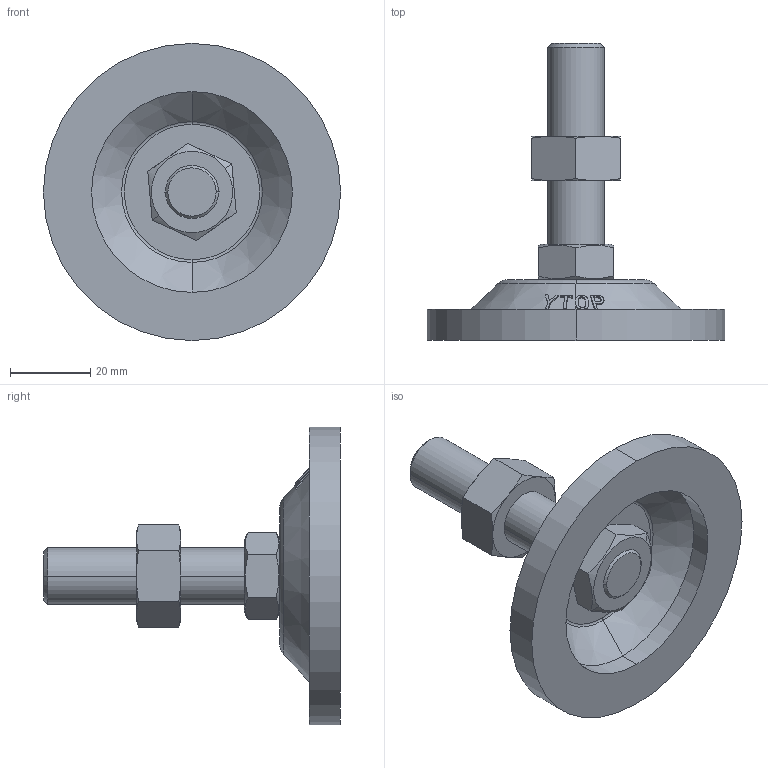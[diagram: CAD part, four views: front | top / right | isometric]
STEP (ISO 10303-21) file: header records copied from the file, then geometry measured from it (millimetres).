
FILE_DESCRIPTION (( 'STEP AP203' ), '1' );
FILE_NAME ('P-74-1450-BR.STEP', '2020-09-10T08:55:44', ( '' ), ( '' ), 'SwSTEP 2.0', 'SolidWorks 2016', '' );
FILE_SCHEMA (( 'CONFIG_CONTROL_DESIGN' ));
Length unit declared in the file: millimetre
Products named in the file (5): 脚垫调节六角螺母M14; P-74-1菁釱-3P; P-74-1450-BR; hex thin nuts-grades ab-chamfered gb_GB_FASTENER_NUT_STNAB M14-N; 傲郈蹟裝M14炵蹈_M14X50
Assembly tree (4 placements, depth 2):
  P-74-1450-BR
    P-74-1菁釱-3P
    傲郈蹟裝M14炵蹈_M14X50
    hex thin nuts-grades ab-chamfered gb_GB_FASTENER_NUT_STNAB M14-N
    脚垫调节六角螺母M14
Bounding box: 74 x 73.9 x 74 mm (x, y, z)
Volume: 40950.4 mm3; surface area: 26238.8 mm2
Topology: 5 solids, 5 shells, 148 faces, 341 edges, 214 vertices
Faces by surface type: cone 46, bspline 38, plane 34, cylinder 20, torus 10
Entity records: 8200 total; most frequent: CARTESIAN_POINT 4678, ORIENTED_EDGE 682, DIRECTION 509, EDGE_CURVE 341, AXIS2_PLACEMENT_3D 221, VERTEX_POINT 214, B_SPLINE_CURVE_WITH_KNOTS 170, EDGE_LOOP 167
